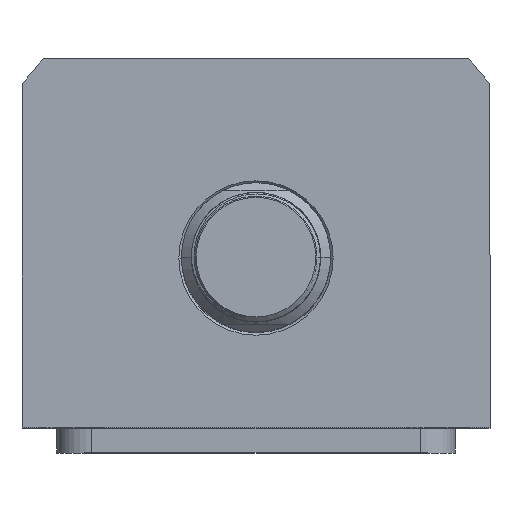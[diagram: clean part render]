
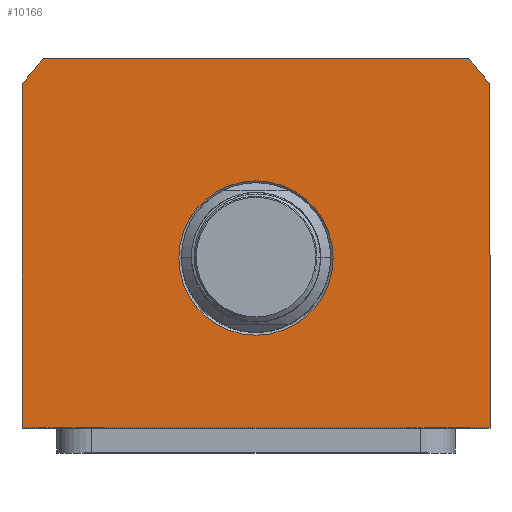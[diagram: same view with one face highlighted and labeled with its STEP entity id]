
A CAD part, top view. The second image highlights one B-rep face of the part: STEP entity #10166.
In plain terms, the highlighted planar face has unit normal (0, 0, 1).
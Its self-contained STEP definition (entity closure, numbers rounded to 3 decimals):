
#323 = EDGE_CURVE ( 'NONE', #17963, #4416, #18985, .T. ) ;
#441 = FACE_OUTER_BOUND ( 'NONE', #4784, .T. ) ;
#479 = CIRCLE ( 'NONE', #11583, 58.5 ) ;
#535 = CARTESIAN_POINT ( 'NONE',  ( 47., -34., 67.5 ) ) ;
#1201 = FACE_BOUND ( 'NONE', #9299, .T. ) ;
#1441 = ORIENTED_EDGE ( 'NONE', *, *, #7975, .T. ) ;
#2445 = CARTESIAN_POINT ( 'NONE',  ( 0., 0., 67.5 ) ) ;
#2678 = ORIENTED_EDGE ( 'NONE', *, *, #14258, .T. ) ;
#2712 = LINE ( 'NONE', #11444, #14128 ) ;
#2736 = CARTESIAN_POINT ( 'NONE',  ( 0., 0., 67.5 ) ) ;
#3291 = CARTESIAN_POINT ( 'NONE',  ( 47., 34.832, 67.5 ) ) ;
#3392 = VERTEX_POINT ( 'NONE', #3291 ) ;
#3699 = EDGE_CURVE ( 'NONE', #8648, #11468, #15629, .T. ) ;
#3756 = CARTESIAN_POINT ( 'NONE',  ( 47., -34., 67.5 ) ) ;
#3902 = CARTESIAN_POINT ( 'NONE',  ( -42.688, 40., 67.5 ) ) ;
#4269 = DIRECTION ( 'NONE',  ( 0., 0., -1. ) ) ;
#4416 = VERTEX_POINT ( 'NONE', #15007 ) ;
#4712 = EDGE_CURVE ( 'NONE', #18141, #6066, #14281, .T. ) ;
#4725 = LINE ( 'NONE', #19254, #4948 ) ;
#4784 = EDGE_LOOP ( 'NONE', ( #5099, #12881, #1441, #2678, #13145, #18461 ) ) ;
#4844 = AXIS2_PLACEMENT_3D ( 'NONE', #15155, #7770, #6043 ) ;
#4948 = VECTOR ( 'NONE', #10145, 1000. ) ;
#5099 = ORIENTED_EDGE ( 'NONE', *, *, #4712, .T. ) ;
#5346 = CARTESIAN_POINT ( 'NONE',  ( 0., 0., 67.5 ) ) ;
#5383 = ORIENTED_EDGE ( 'NONE', *, *, #15623, .T. ) ;
#6043 = DIRECTION ( 'NONE',  ( 1., 0., 0. ) ) ;
#6066 = VERTEX_POINT ( 'NONE', #3756 ) ;
#6156 = CARTESIAN_POINT ( 'NONE',  ( -47., -34., 67.5 ) ) ;
#6881 = DIRECTION ( 'NONE',  ( 1., 0., 0. ) ) ;
#6995 = DIRECTION ( 'NONE',  ( 1., 0., 0. ) ) ;
#7770 = DIRECTION ( 'NONE',  ( 0., 0., 1. ) ) ;
#7890 = ORIENTED_EDGE ( 'NONE', *, *, #3699, .T. ) ;
#7975 = EDGE_CURVE ( 'NONE', #3392, #18692, #479, .T. ) ;
#8349 = AXIS2_PLACEMENT_3D ( 'NONE', #2736, #4269, #11961 ) ;
#8377 = CARTESIAN_POINT ( 'NONE',  ( -42.688, 40., 67.5 ) ) ;
#8481 = AXIS2_PLACEMENT_3D ( 'NONE', #5346, #17516, #6881 ) ;
#8648 = VERTEX_POINT ( 'NONE', #9954 ) ;
#9299 = EDGE_LOOP ( 'NONE', ( #7890, #5383 ) ) ;
#9366 = PLANE ( 'NONE',  #4844 ) ;
#9653 = DIRECTION ( 'NONE',  ( 1., 0., 0. ) ) ;
#9954 = CARTESIAN_POINT ( 'NONE',  ( 15.5, 0., 67.5 ) ) ;
#10145 = DIRECTION ( 'NONE',  ( 0., 1., 0. ) ) ;
#10166 = ADVANCED_FACE ( 'NONE', ( #1201, #441 ), #9366, .T. ) ;
#10362 = CIRCLE ( 'NONE', #15969, 15.5 ) ;
#11130 = EDGE_CURVE ( 'NONE', #6066, #3392, #4725, .T. ) ;
#11159 = CARTESIAN_POINT ( 'NONE',  ( -15.5, 0., 67.5 ) ) ;
#11444 = CARTESIAN_POINT ( 'NONE',  ( -47., -34., 67.5 ) ) ;
#11468 = VERTEX_POINT ( 'NONE', #11159 ) ;
#11469 = DIRECTION ( 'NONE',  ( 1., 0., 0. ) ) ;
#11583 = AXIS2_PLACEMENT_3D ( 'NONE', #11637, #17429, #6995 ) ;
#11637 = CARTESIAN_POINT ( 'NONE',  ( 0., 0., 67.5 ) ) ;
#11961 = DIRECTION ( 'NONE',  ( 1., 0., 0. ) ) ;
#12640 = LINE ( 'NONE', #3902, #15031 ) ;
#12881 = ORIENTED_EDGE ( 'NONE', *, *, #11130, .T. ) ;
#13145 = ORIENTED_EDGE ( 'NONE', *, *, #323, .T. ) ;
#14128 = VECTOR ( 'NONE', #15912, 1000. ) ;
#14258 = EDGE_CURVE ( 'NONE', #18692, #17963, #12640, .T. ) ;
#14281 = LINE ( 'NONE', #535, #18535 ) ;
#14467 = DIRECTION ( 'NONE',  ( 0., 0., -1. ) ) ;
#15007 = CARTESIAN_POINT ( 'NONE',  ( -47., 34.832, 67.5 ) ) ;
#15031 = VECTOR ( 'NONE', #16004, 1000. ) ;
#15155 = CARTESIAN_POINT ( 'NONE',  ( 0., 0., 67.5 ) ) ;
#15623 = EDGE_CURVE ( 'NONE', #11468, #8648, #10362, .T. ) ;
#15629 = CIRCLE ( 'NONE', #8349, 15.5 ) ;
#15912 = DIRECTION ( 'NONE',  ( 0., -1., 0. ) ) ;
#15969 = AXIS2_PLACEMENT_3D ( 'NONE', #2445, #14467, #11469 ) ;
#16004 = DIRECTION ( 'NONE',  ( -1., 0., 0. ) ) ;
#17229 = EDGE_CURVE ( 'NONE', #4416, #18141, #2712, .T. ) ;
#17429 = DIRECTION ( 'NONE',  ( 0., 0., 1. ) ) ;
#17516 = DIRECTION ( 'NONE',  ( 0., 0., 1. ) ) ;
#17963 = VERTEX_POINT ( 'NONE', #8377 ) ;
#18141 = VERTEX_POINT ( 'NONE', #6156 ) ;
#18461 = ORIENTED_EDGE ( 'NONE', *, *, #17229, .T. ) ;
#18535 = VECTOR ( 'NONE', #9653, 1000. ) ;
#18556 = CARTESIAN_POINT ( 'NONE',  ( 42.688, 40., 67.5 ) ) ;
#18692 = VERTEX_POINT ( 'NONE', #18556 ) ;
#18985 = CIRCLE ( 'NONE', #8481, 58.5 ) ;
#19254 = CARTESIAN_POINT ( 'NONE',  ( 47., 34.832, 67.5 ) ) ;
